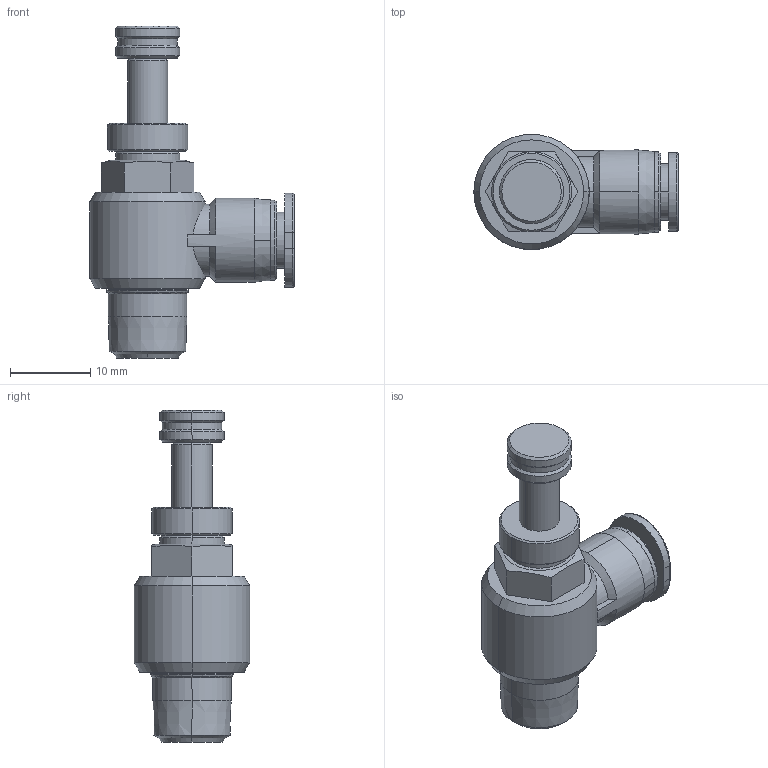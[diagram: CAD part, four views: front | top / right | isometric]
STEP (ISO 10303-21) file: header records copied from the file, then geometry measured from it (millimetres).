
FILE_DESCRIPTION (( 'STEP AP214' ), '1' );
FILE_NAME ('AJSC6-01.STEP', '2019-12-06T02:42:15', ( '微软用户' ), ( '微软中国' ), 'SwSTEP 2.0', 'SolidWorks 2016', '' );
FILE_SCHEMA (( 'AUTOMOTIVE_DESIGN' ));
Length unit declared in the file: millimetre
Products named in the file (1): AJSC6-01
Bounding box: 25.5 x 14.4 x 41.45 mm (x, y, z)
Volume: 4161.4 mm3; surface area: 2422.2 mm2
Topology: 1 solids, 1 shells, 111 faces, 259 edges, 161 vertices
Faces by surface type: cone 45, cylinder 36, plane 26, bspline 4
Entity records: 3365 total; most frequent: CARTESIAN_POINT 763, DIRECTION 575, ORIENTED_EDGE 518, EDGE_CURVE 259, AXIS2_PLACEMENT_3D 243, VERTEX_POINT 161, CIRCLE 135, EDGE_LOOP 122
